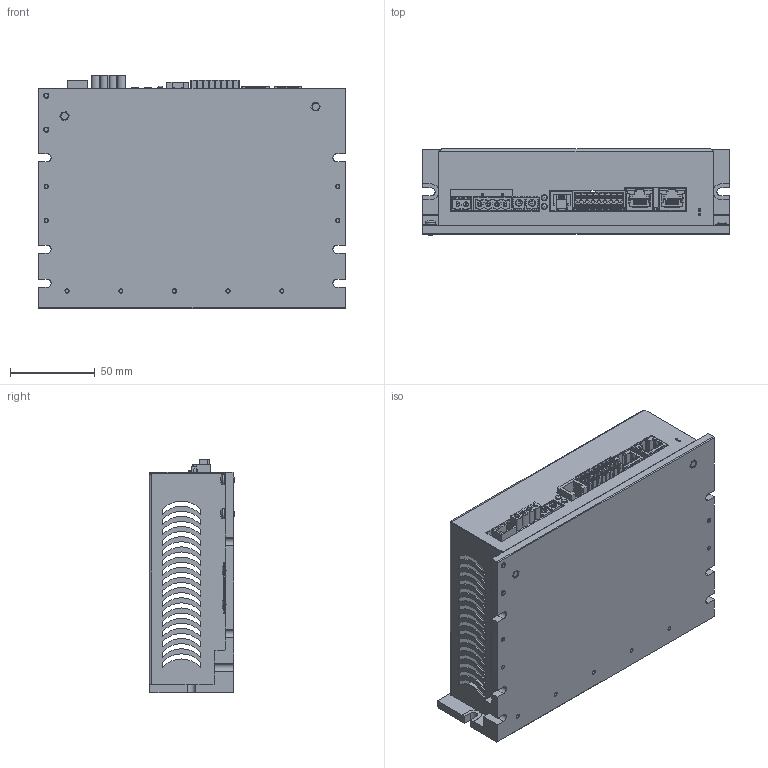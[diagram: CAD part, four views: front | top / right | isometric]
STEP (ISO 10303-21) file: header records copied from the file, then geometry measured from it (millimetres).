
FILE_DESCRIPTION(/* description */ ('Unknown'),/* implementation_level */ '2;1');
FILE_NAME(/* name */ 'SW3A9030H241-20',/* time_stamp */ '2021-09-01T12:15:47+02:00',/* author */ ('Unknown'),/* organization */ ('Unknown'),/* preprocessor_version */ 'ST-DEVELOPER v16.7',/* originating_system */ 'Solid Edge',/* authorisation */ 'Unknown');
FILE_SCHEMA (('AUTOMOTIVE_DESIGN {1 0 10303 214 3 1 1}'));
Products named in the file (45): SW3A90 con ETD01; estruso_sw3a90_ETD01_inserti; estruso_sw3a90_ETD01; inserto_m2_5x12mm; ad_01121_sw5a9030_isd04; ETD01-00; Board; Open CASCADE STEP translator 6.8 1.1.1; LED503; LED_HSMx-C680; LED500; CN5B; c-1-406541-5-l1-3d; CN5A; CN3; 1786895; dmc_1.5-8-g1-3.5; Q404; User_Library-TO252AA; CN2; 1731086; GL500; 5151061f; SW501; RTE0400V04; SW500; Q406; Q407; Q405; Q402; Q403; Q400; Q401; CN6; 955012641; Open CASCADE STEP translator 6.8 1.19.1.1; Open CASCADE STEP translator 6.8 1.19.1.2; CN1; CA02MHLT5.08B_1757242; MSTBA_2_5-2-G-5_08-72070_ASM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
Assembly tree (67 placements, depth 6):
  SW3A90 con ETD01
    estruso_sw3a90_ETD01_inserti
      estruso_sw3a90_ETD01
      inserto_m2_5x12mm  x2
    ad_01121_sw5a9030_isd04
    ETD01-00
      Board
        Open CASCADE STEP translator 6.8 1.1.1
      LED503
        LED_HSMx-C680
      LED500
        LED_HSMx-C680
      CN5B
        c-1-406541-5-l1-3d
      CN5A
        c-1-406541-5-l1-3d
      CN3
        1786895
          dmc_1.5-8-g1-3.5
      Q404
        User_Library-TO252AA
      CN2
        1731086
      GL500
        5151061f
      SW501
        RTE0400V04
      SW500
        RTE0400V04
      Q406
        User_Library-TO252AA
      Q407
        User_Library-TO252AA
      Q405
        User_Library-TO252AA
      Q402
        User_Library-TO252AA
      Q403
        User_Library-TO252AA
      Q400
        User_Library-TO252AA
      Q401
        User_Library-TO252AA
      CN6
        955012641
          Open CASCADE STEP translator 6.8 1.19.1.1
          Open CASCADE STEP translator 6.8 1.19.1.2
      CN1
        CA02MHLT5.08B_1757242
          MSTBA_2_5-2-G-5_08-72070_ASM
            MSTBA_2_5-2-G-5_08-69580
    tcc_M2e5x05  x11
    scatola_sw3a9030_etd01
    dentellata_M3  x2
    tcc_M3x06  x2
Bounding box: 180.7 x 50.65 x 137.61 mm (x, y, z)
Volume: 248487.3 mm3; surface area: 204669.3 mm2
Topology: 39 solids, 55 shells, 5854 faces, 16085 edges, 10377 vertices
Faces by surface type: plane 3762, cylinder 1484, cone 235, bspline 233, sphere 80, torus 60
Full cylindrical faces by diameter (mm): 0.434 x1, 0.457 x2, 0.75 x8, 0.762 x32, 0.8 x12, 0.9 x20, 1 x17, 1.016 x4, 1.2 x4, 1.27 x2, 1.397 x1, 1.4 x30, 1.5 x6, 1.524 x12, 1.53 x1, 1.55 x1, 1.6 x4, 1.778 x4, 2.032 x6, 2.05 x11, 2.5 x27, 2.7 x7, 2.75 x2, 2.8 x4, 3 x8, 3.048 x2, 3.2 x4, 3.25 x4, 3.6 x2, 3.76 x2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
Entity records: 150407 total; most frequent: CARTESIAN_POINT 29613, ORIENTED_EDGE 21102, DIRECTION 19943, EDGE_CURVE 10609, LINE 7183, VECTOR 7183, VERTEX_POINT 7101, AXIS2_PLACEMENT_3D 6380
